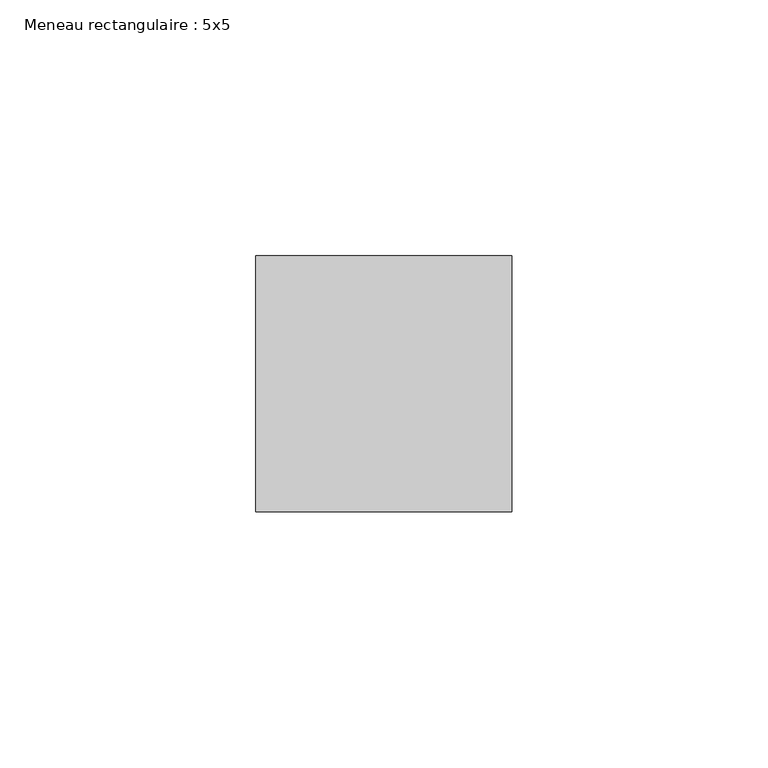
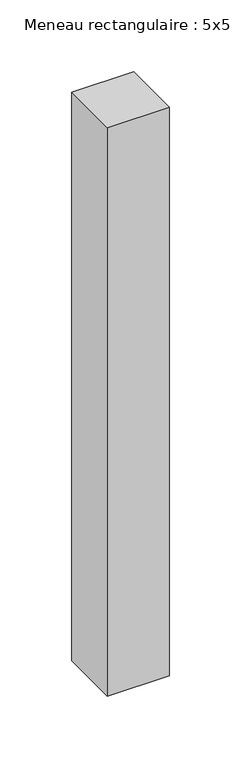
"""IFC4 building model written with IfcOpenShell, lengths in millimetres: member geometry, Meneau rectangulaire : 5x5."""

from ifc_helpers import new_model, si_unit, frame, origin, place, context, project, spatial, polyline, outline, extrude, source, transform, mapped, element, save


def meneau_rectangulaire_5x5_76b248d4(model_context):
    return source(origin(), model_context, "Body", "SweptSolid", [
        extrude(outline(polyline([(25.0, 25.0), (25.0, -25.0), (-25.0, -25.0), (-25.0, 25.0), (25.0, 25.0)])), frame((0.0, 0.0, -485.0), z_axis=(0.0, 0.0, 1.0), x_axis=(1.0, 0.0, 0.0)), (0.0, 0.0, 1.0), 485.0),
    ])


if __name__ == "__main__":
    model = new_model("IFC4")
    model_context = context("Model", 3, world=origin())
    ifc_project = project(units=[si_unit("LENGTHUNIT", "METRE", prefix="MILLI")], contexts=[model_context])
    site = spatial("IfcSite", under=ifc_project)
    building = spatial("IfcBuilding", under=site)
    placement = place(None, origin())
    meneau_rectangulaire_5x5_shape = meneau_rectangulaire_5x5_76b248d4(model_context)
    element("IfcMember", 1, ObjectType="Meneau rectangulaire : 5x5", at=placement, inside=building, context=model_context, shape_type="MappedRepresentation", body=[
        mapped(meneau_rectangulaire_5x5_shape, transform((0.0, 0.0, 0.0), x_axis=(1.0, 0.0, 0.0), y_axis=(0.0, 1.0, 0.0), z_axis=(0.0, 0.0, 1.0))),
    ])
    save(model, "model.ifc")
